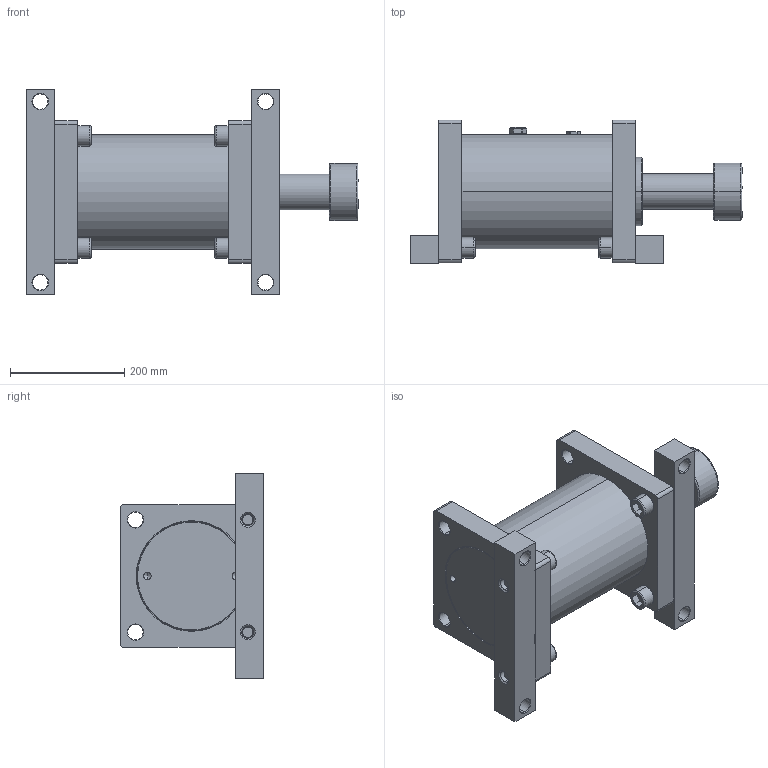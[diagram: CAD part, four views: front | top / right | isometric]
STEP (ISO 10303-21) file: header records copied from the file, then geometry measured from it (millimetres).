
FILE_DESCRIPTION (( 'STEP AP214' ), '1' );
FILE_NAME ('LDD4.0X4.STEP', '2019-01-16T08:38:16', ( 'user' ), ( 'Microsoft' ), 'SwSTEP 2.0', 'SolidWorks 2016', '' );
FILE_SCHEMA (( 'AUTOMOTIVE_DESIGN' ));
Length unit declared in the file: inch
Products named in the file (1): LDD4.0X4
Bounding box: 582 x 251.5 x 360 mm (x, y, z)
Volume: 10002947.5 mm3; surface area: 1270976.5 mm2
Topology: 19 solids, 19 shells, 608 faces, 1357 edges, 814 vertices
Faces by surface type: cylinder 194, cone 169, plane 135, bspline 110
Entity records: 24511 total; most frequent: CARTESIAN_POINT 10896, DIRECTION 2923, ORIENTED_EDGE 2682, EDGE_CURVE 1341, AXIS2_PLACEMENT_3D 1205, VERTEX_POINT 814, CIRCLE 706, EDGE_LOOP 703
